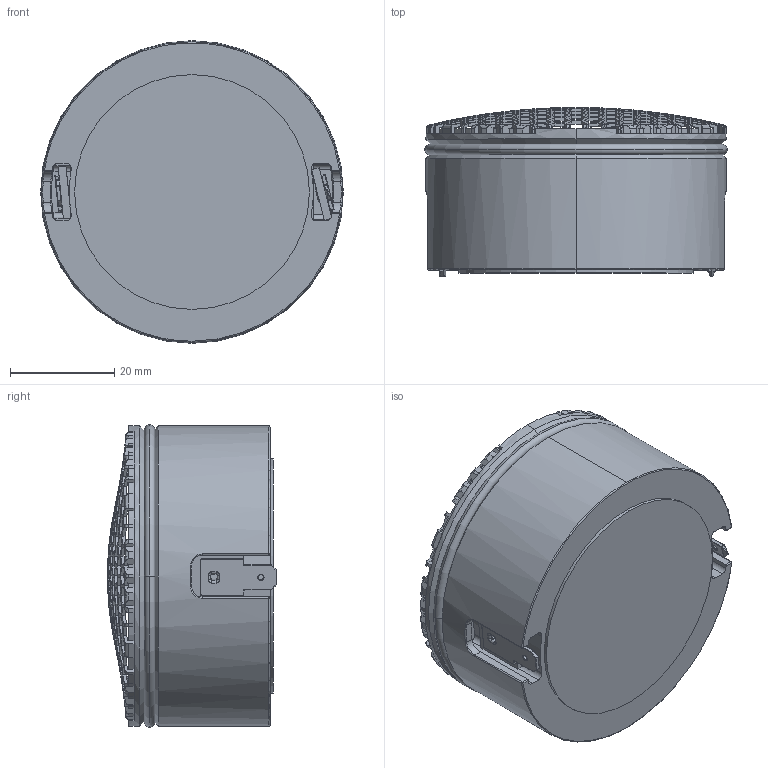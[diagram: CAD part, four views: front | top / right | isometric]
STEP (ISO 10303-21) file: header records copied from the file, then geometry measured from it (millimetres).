
FILE_DESCRIPTION (( 'STEP AP214' ), '1' );
FILE_NAME ('BD025-6-258.STEP', '2017-07-20T14:11:46', ( '' ), ( '' ), 'SwSTEP 2.0', 'SolidWorks 2015', '' );
FILE_SCHEMA (( 'AUTOMOTIVE_DESIGN' ));
Length unit declared in the file: millimetre
Products named in the file (12): KLT3; TRM1; KLT2; KLT4; GTR; KRB2; KRB1_Standard; BD025-6-258; Sicke_Standard; Membrane_Standard; KLT1; TRM2
Assembly tree (12 placements, depth 3):
  BD025-6-258
    KRB1_Standard
    KRB2
    GTR
    TRM1
      KLT4
      KLT2
    TRM2
      KLT4
      KLT3
    KLT1
    Membrane_Standard
    Sicke_Standard
Bounding box: 58 x 32.41 x 58 mm (x, y, z)
Volume: 56830 mm3; surface area: 24080.9 mm2
Topology: 10 solids, 10 shells, 1836 faces, 5359 edges, 3490 vertices
Faces by surface type: plane 1351, cylinder 300, torus 80, bspline 63, sphere 24, cone 18
Entity records: 91676 total; most frequent: CARTESIAN_POINT 28769, ORIENTED_EDGE 10650, DIRECTION 6381, EDGE_CURVE 5325, VERTEX_POINT 3476, B_SPLINE_CURVE_WITH_KNOTS 2965, AXIS2_PLACEMENT_3D 2269, EDGE_LOOP 2147
